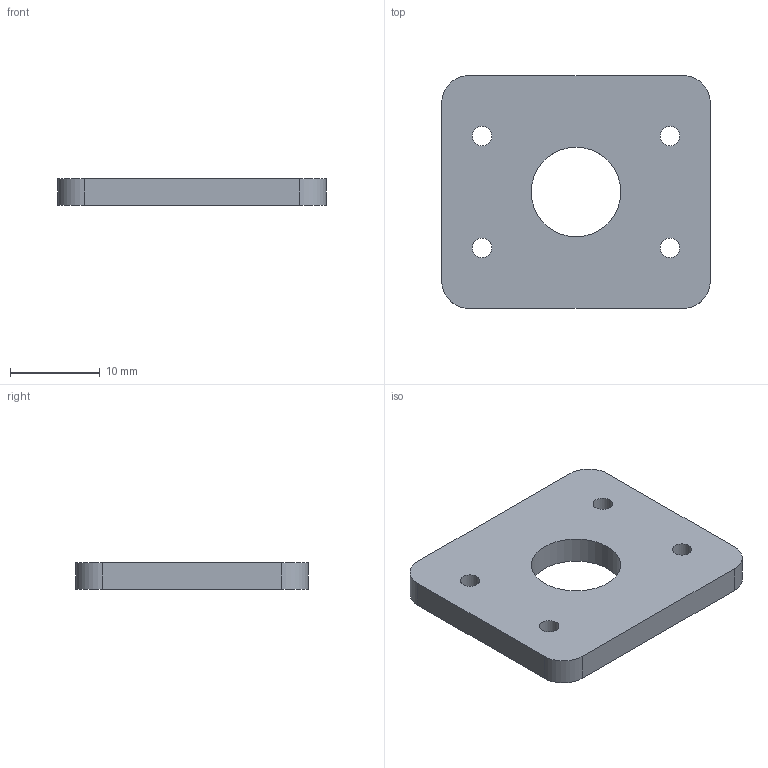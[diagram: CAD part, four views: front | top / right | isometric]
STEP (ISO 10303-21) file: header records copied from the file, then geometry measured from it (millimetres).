
FILE_DESCRIPTION(('Open CASCADE Model'),'2;1');
FILE_NAME('Open CASCADE Shape Model','2026-10-04T21:56:21',('Author'),( 'Open CASCADE'),'Open CASCADE STEP processor 7.9','Open CASCADE 7.9' ,'Unknown');
FILE_SCHEMA(('AUTOMOTIVE_DESIGN { 1 0 10303 214 1 1 1 1 }'));
Length unit declared in the file: millimetre
Products named in the file (1): Open CASCADE STEP translator 7.9 6
Bounding box: 30 x 26 x 3 mm (x, y, z)
Volume: 2035.6 mm3; surface area: 1854.8 mm2
Topology: 1 solids, 1 shells, 15 faces, 39 edges, 26 vertices
Faces by surface type: cylinder 9, plane 6
Full cylindrical faces by diameter (mm): 2.2 x4, 10 x1
Entity records: 1029 total; most frequent: CARTESIAN_POINT 201, DIRECTION 160, LINE 81, VECTOR 81, ORIENTED_EDGE 78, PCURVE 78, DEFINITIONAL_REPRESENTATION 78, EDGE_CURVE 39
